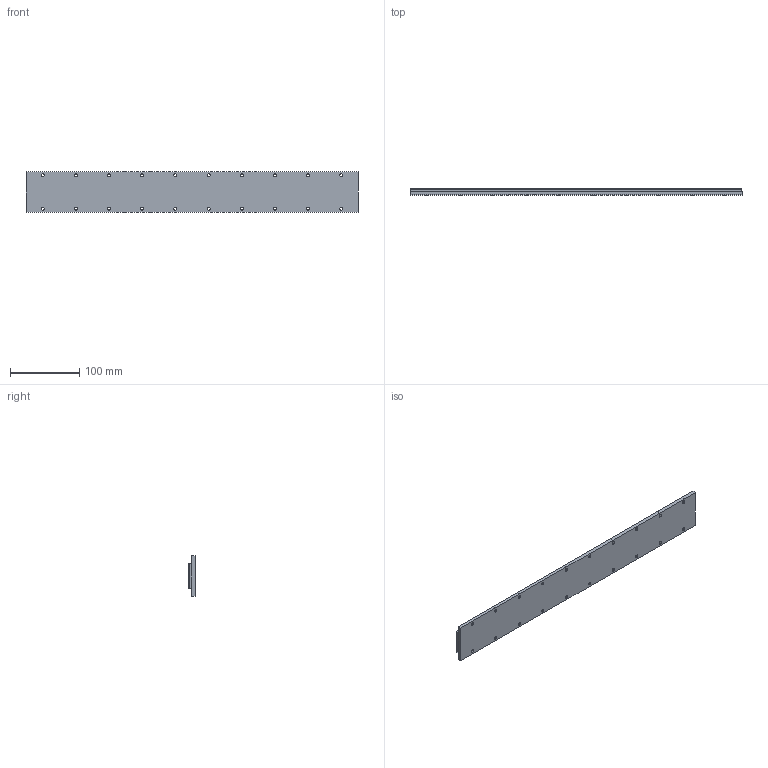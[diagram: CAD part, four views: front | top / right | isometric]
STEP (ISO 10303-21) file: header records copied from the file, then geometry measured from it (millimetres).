
FILE_DESCRIPTION (( 'STEP AP203' ), '1' );
FILE_NAME ('CS480.STEP', '2025-12-28T08:05:20', ( '' ), ( '' ), 'SwSTEP 2.0', 'SolidWorks 2024', '' );
FILE_SCHEMA (( 'CONFIG_CONTROL_DESIGN' ));
Length unit declared in the file: millimetre
Products named in the file (1): CS480
Bounding box: 480 x 8.7 x 58 mm (x, y, z)
Volume: 200297.1 mm3; surface area: 73586.1 mm2
Topology: 1 solids, 1 shells, 153 faces, 368 edges, 240 vertices
Faces by surface type: cylinder 84, plane 57, bspline 12
Entity records: 4883 total; most frequent: CARTESIAN_POINT 1070, DIRECTION 796, ORIENTED_EDGE 736, EDGE_CURVE 368, AXIS2_PLACEMENT_3D 310, VERTEX_POINT 240, EDGE_LOOP 216, LINE 176
